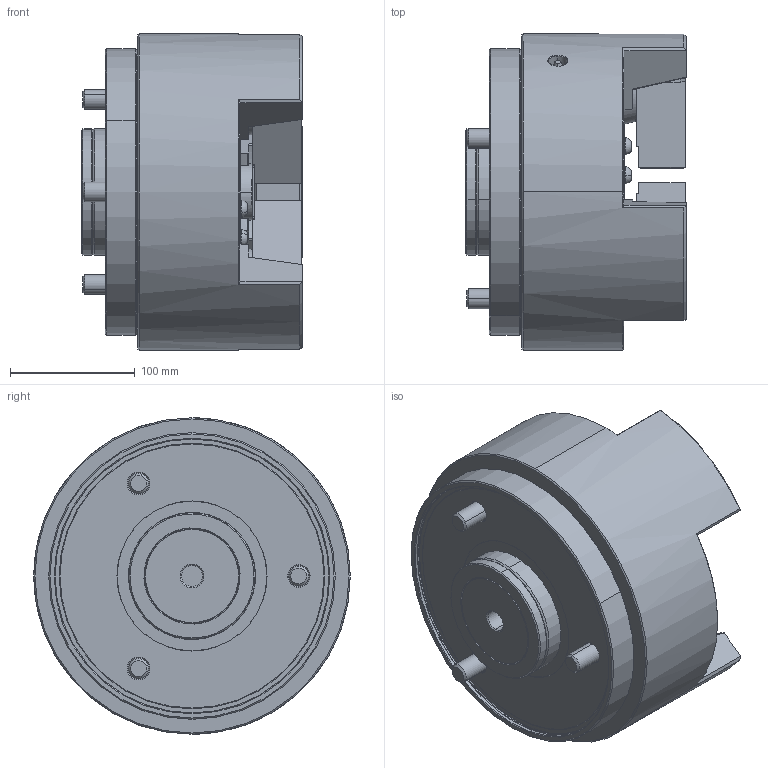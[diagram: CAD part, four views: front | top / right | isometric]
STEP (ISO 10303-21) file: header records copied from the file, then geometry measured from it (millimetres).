
FILE_DESCRIPTION (( 'STEP AP214' ), '1' );
FILE_NAME ('PUB210_OC.STEP', '2019-10-25T03:56:00', ( '' ), ( '' ), 'SwSTEP 2.0', 'SolidWorks 2017', '' );
FILE_SCHEMA (( 'AUTOMOTIVE_DESIGN' ));
Length unit declared in the file: millimetre
Products named in the file (4): 結合; 0030114035; 61P332362; PUB210_OC
Assembly tree (7 placements, depth 2):
  PUB210_OC
    61P332362  x3
    0030114035  x3
    結合
Bounding box: 177 x 254 x 254 mm (x, y, z)
Volume: 5663676.4 mm3; surface area: 378979.5 mm2
Topology: 7 solids, 7 shells, 979 faces, 2456 edges, 1547 vertices
Faces by surface type: plane 487, cone 184, bspline 143, cylinder 132, torus 33
Entity records: 33657 total; most frequent: CARTESIAN_POINT 13578, ORIENTED_EDGE 4416, DIRECTION 3636, EDGE_CURVE 2208, VERTEX_POINT 1409, LINE 1220, VECTOR 1220, AXIS2_PLACEMENT_3D 1208
